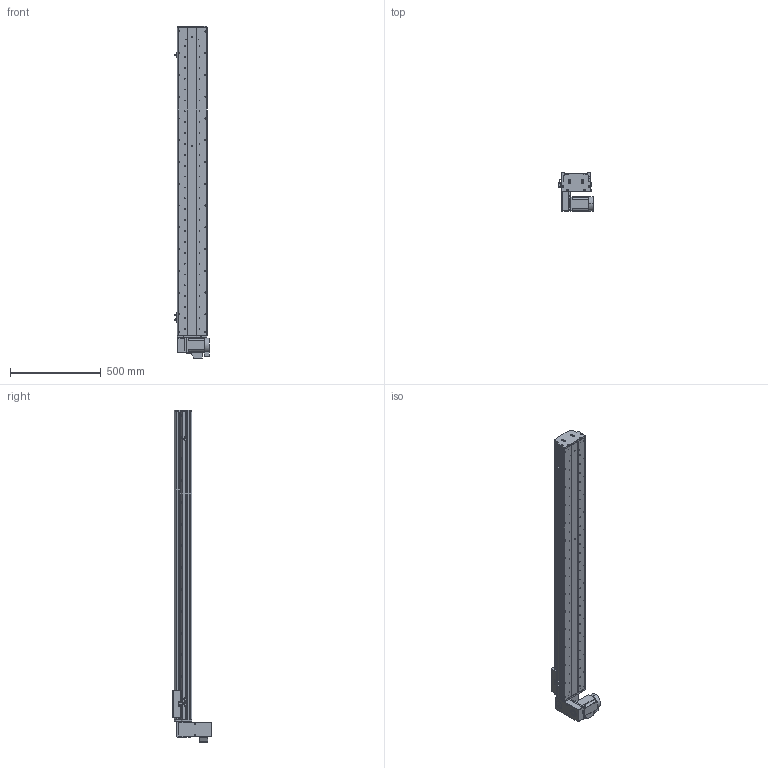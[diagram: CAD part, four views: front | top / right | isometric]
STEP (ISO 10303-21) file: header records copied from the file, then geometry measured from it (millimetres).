
FILE_DESCRIPTION (( 'STEP AP214' ), '1' );
FILE_NAME ('KSD165B-S1450-MLD-CM.STEP', '2017-10-16T07:29:13', ( '微软用户' ), ( '微软中国' ), 'SwSTEP 2.0', 'SolidWorks 2014', '' );
FILE_SCHEMA (( 'AUTOMOTIVE_DESIGN' ));
Length unit declared in the file: millimetre
Products named in the file (17): KSD165B-S1450-MLD-CM; 130宽模组马达安装板连板上下折丝杆同步带; 130宽模组保护罩上下左右折-同步带; HTPA26S5M250-A-H8 750W萇儂蚚; HTPA26S5M250-A-H8 400W萇儂蚚 ; 165宽马达安装板同步带左-改; KSD165模组-同步带防尘盖1-1450行程; KSD165模组同步带底板-1450行程; 拸秶雄ん750W侜督萇儂; U倰嫖萇假蚾璃; U倰嫖萇EEㄜSX672; 覜茼え68遵圉猾敕; KSD165模组-同步带-防撞垫2; KSD165模组同步带-防撞垫1; KSD165耀郪-ヶ傷啣1-肮祭湍; KSD165模组-后端板1-同步带; KSD165模组-同步带滑动座-最新版
Assembly tree (20 placements, depth 2):
  KSD165B-S1450-MLD-CM
    KSD165模组-同步带滑动座-最新版
    KSD165模组-后端板1-同步带
    KSD165耀郪-ヶ傷啣1-肮祭湍
    KSD165模组同步带-防撞垫1
    KSD165模组-同步带-防撞垫2
    覜茼え68遵圉猾敕
    U倰嫖萇EEㄜSX672  x3
    U倰嫖萇假蚾璃  x3
    拸秶雄ん750W侜督萇儂
    KSD165模组同步带底板-1450行程
    KSD165模组-同步带防尘盖1-1450行程
    165宽马达安装板同步带左-改
    HTPA26S5M250-A-H8 400W萇儂蚚 
    HTPA26S5M250-A-H8 750W萇儂蚚
    130宽模组保护罩上下左右折-同步带
    130宽模组马达安装板连板上下折丝杆同步带
Bounding box: 191.2 x 210 x 1831 mm (x, y, z)
Volume: 9945336.5 mm3; surface area: 2320771.2 mm2
Topology: 21 solids, 22 shells, 2047 faces, 5790 edges, 3784 vertices
Faces by surface type: cylinder 1337, plane 598, cone 112
Entity records: 67232 total; most frequent: CARTESIAN_POINT 13794, DIRECTION 10982, ORIENTED_EDGE 10240, EDGE_CURVE 5120, AXIS2_PLACEMENT_3D 4322, VERTEX_POINT 3376, CIRCLE 2472, LINE 2338
